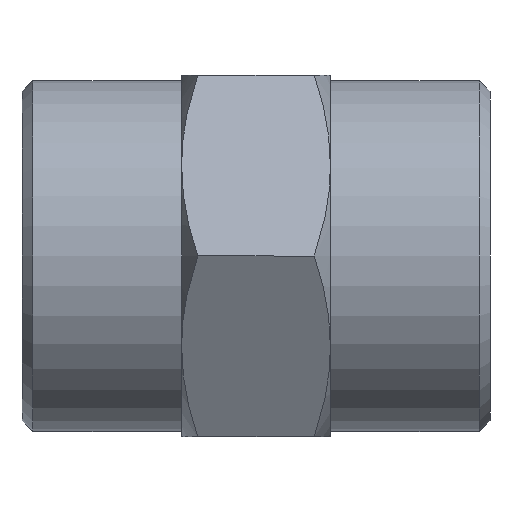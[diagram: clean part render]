
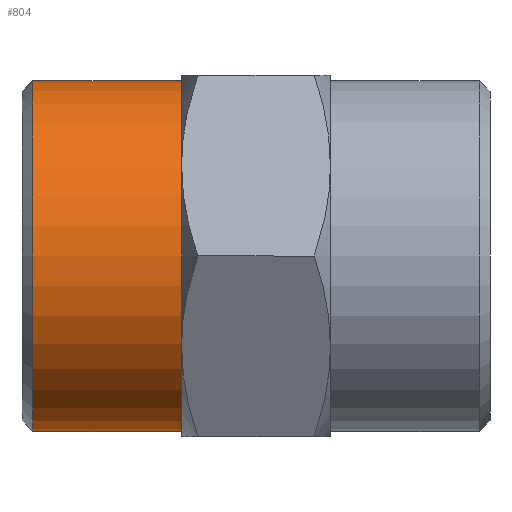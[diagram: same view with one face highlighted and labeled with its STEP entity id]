
A CAD part, left-side view. The second image highlights one B-rep face of the part: STEP entity #804.
In plain terms, the highlighted cylindrical face has radius 8.25 mm (diameter 16.5 mm), a full revolution.
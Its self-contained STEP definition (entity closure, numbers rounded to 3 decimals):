
#35 = CARTESIAN_POINT ( 'NONE',  ( 0., 21.5, -8.25 ) ) ;
#37 = CARTESIAN_POINT ( 'NONE',  ( 8.25, 14.5, 0. ) ) ;
#57 = DIRECTION ( 'NONE',  ( 0., -1., 0. ) ) ;
#58 = CARTESIAN_POINT ( 'NONE',  ( 0., 21.5, 0. ) ) ;
#62 = DIRECTION ( 'NONE',  ( 1., 0., 0. ) ) ;
#213 = DIRECTION ( 'NONE',  ( 0., 0., -1. ) ) ;
#214 = DIRECTION ( 'NONE',  ( 0., -1., 0. ) ) ;
#215 = CARTESIAN_POINT ( 'NONE',  ( 0., 21.5, 0. ) ) ;
#245 = DIRECTION ( 'NONE',  ( 1., 0., 0. ) ) ;
#247 = DIRECTION ( 'NONE',  ( 0., -1., 0. ) ) ;
#248 = CARTESIAN_POINT ( 'NONE',  ( 0., 14.5, 0. ) ) ;
#401 = AXIS2_PLACEMENT_3D ( 'NONE', #58, #57, #62 ) ;
#412 = AXIS2_PLACEMENT_3D ( 'NONE', #248, #247, #245 ) ;
#487 = EDGE_CURVE ( 'NONE', #576, #576, #678, .T. ) ;
#494 = EDGE_CURVE ( 'NONE', #574, #574, #663, .T. ) ;
#495 = AXIS2_PLACEMENT_3D ( 'NONE', #215, #214, #213 ) ;
#520 = ORIENTED_EDGE ( 'NONE', *, *, #487, .F. ) ;
#574 = VERTEX_POINT ( 'NONE', #35 ) ;
#576 = VERTEX_POINT ( 'NONE', #37 ) ;
#590 = CYLINDRICAL_SURFACE ( 'NONE', #401, 8.25 ) ;
#601 = FACE_OUTER_BOUND ( 'NONE', #645, .T. ) ;
#620 = FACE_OUTER_BOUND ( 'NONE', #763, .T. ) ;
#645 = EDGE_LOOP ( 'NONE', ( #520 ) ) ;
#663 = CIRCLE ( 'NONE', #495, 8.25 ) ;
#678 = CIRCLE ( 'NONE', #412, 8.25 ) ;
#735 = ORIENTED_EDGE ( 'NONE', *, *, #494, .T. ) ;
#763 = EDGE_LOOP ( 'NONE', ( #735 ) ) ;
#804 = ADVANCED_FACE ( 'NONE', ( #620, #601 ), #590, .T. ) ;
